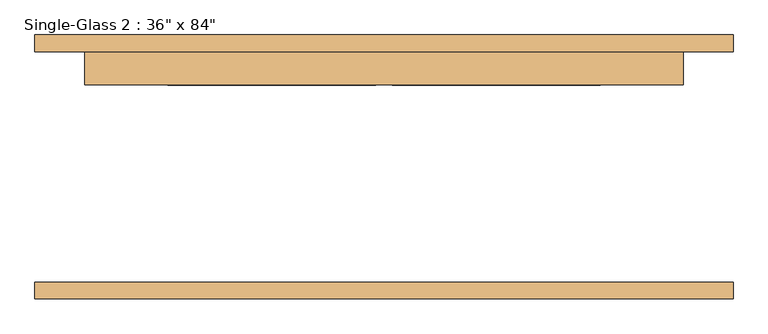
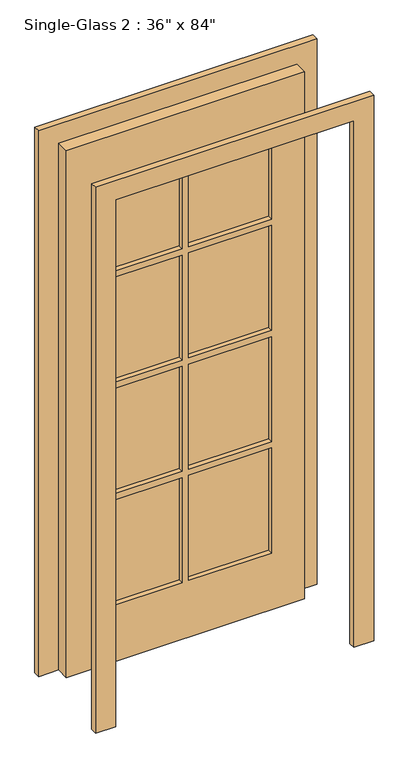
"""IFC4 building model written with IfcOpenShell, lengths in millimetres: door geometry."""

import ifcopenshell
import ifcopenshell.guid

model = None  # the IFC model being written
_history = None  # IfcOwnerHistory: only IFC2X3 demands one
_inside = {}  # id of a spatial element -> (the spatial element, [elements in it])
_under = {}  # id of a project, library or spatial element -> (it, [spatial elements below it])
_declared = {}  # id of a project -> (the project, [libraries it declares])
_typed = {}  # id of a type object -> (the type object, [elements of that type])
_made_of = {}  # id of a material, layer set ... -> (it, [elements and type objects made of it])


def new_model(schema):
    """Start an empty IFC model of exactly this schema.

    Asked for "IFC4X3", IfcOpenShell would pick the latest addendum, in which some entities
    have other attributes; the version numbers below select the first issue.
    IFC2X3 requires an IfcOwnerHistory on every rooted entity: one is made here for all.
    """
    global model, _history
    if schema == "IFC4X3":
        model = ifcopenshell.file(schema_version=(4, 3, 0, 0))
    else:
        model = ifcopenshell.file(schema=schema)
    _inside.clear()
    _under.clear()
    _declared.clear()
    _typed.clear()
    _made_of.clear()
    _history = None
    if model.schema == "IFC2X3":
        org = make("IfcOrganization", Name="unknown")
        user = make(
            "IfcPersonAndOrganization",
            ThePerson=make("IfcPerson", FamilyName="unknown"),
            TheOrganization=org,
        )
        app = make(
            "IfcApplication",
            ApplicationDeveloper=org,
            Version="unknown",
            ApplicationFullName="unknown",
            ApplicationIdentifier="unknown",
        )
        _history = make(
            "IfcOwnerHistory",
            OwningUser=user,
            OwningApplication=app,
            ChangeAction="ADDED",
            CreationDate=0,
        )
    return model


def make(cls, **values):
    """One entity of the class cls with the attributes given. An attribute that is None is left unset."""
    return model.create_entity(
        cls, **{name: value for name, value in values.items() if value is not None}
    )


def rooted(cls, **values):
    """An entity with a GlobalId (a new one), such as an element, a storey or a relation."""
    return make(cls, GlobalId=ifcopenshell.guid.new(), OwnerHistory=_history, **values)


def si_unit(unit_type, name, prefix=None):
    """IfcSIUnit, for example si_unit("LENGTHUNIT", "METRE", prefix="MILLI")."""
    return make("IfcSIUnit", UnitType=unit_type, Prefix=prefix, Name=name)


def assignment(units):
    """IfcUnitAssignment: the units of a project."""
    return None if units is None else make("IfcUnitAssignment", Units=units)


def point(xyz):
    """IfcCartesianPoint."""
    return None if xyz is None else make("IfcCartesianPoint", Coordinates=xyz)


def direction(xyz):
    """IfcDirection."""
    return None if xyz is None else make("IfcDirection", DirectionRatios=xyz)


def frame(location, z_axis=None, x_axis=None):
    """IfcAxis2Placement3D, a coordinate frame: its origin and axes. An axis left out is left unset."""
    return make(
        "IfcAxis2Placement3D",
        Location=point(location),
        Axis=direction(z_axis),
        RefDirection=direction(x_axis),
    )


def origin():
    """The frame at (0, 0, 0) with its axes left unset."""
    return frame((0.0, 0.0, 0.0))


def place(relative_to, where):
    """IfcLocalPlacement: puts the frame where relative to a parent placement (None: the world)."""
    return make(
        "IfcLocalPlacement", PlacementRelTo=relative_to, RelativePlacement=where
    )


def context(
    kind, dimensions, precision=None, world=None, true_north=None, identifier=None
):
    """IfcGeometricRepresentationContext, for example the 3D "Model" context."""
    return make(
        "IfcGeometricRepresentationContext",
        ContextIdentifier=identifier,
        ContextType=kind,
        CoordinateSpaceDimension=dimensions,
        Precision=precision,
        WorldCoordinateSystem=world,
        TrueNorth=true_north,
    )


def project(units=None, contexts=None):
    """IfcProject with its units and contexts."""
    return rooted(
        "IfcProject",
        Name="project",
        RepresentationContexts=contexts,
        UnitsInContext=assignment(units),
    )


def spatial(cls, under=None, at=None, **own):
    """A site, building, storey or space (cls), placed at a placement, below another one or the project."""
    s = rooted(cls, ObjectPlacement=at, **own)
    if under is not None:
        _under.setdefault(under.id(), (under, []))[1].append(s)
    return s


def polyline(points):
    """IfcPolyline through the points."""
    return make("IfcPolyline", Points=[point(p) for p in points])


def outline(outer, holes=None, kind="AREA"):
    """IfcArbitraryClosedProfileDef: a profile drawn as a closed curve; with holes, ...WithVoids."""
    if holes is None:
        return make("IfcArbitraryClosedProfileDef", ProfileType=kind, OuterCurve=outer)
    return make(
        "IfcArbitraryProfileDefWithVoids",
        ProfileType=kind,
        OuterCurve=outer,
        InnerCurves=holes,
    )


def extrude(swept, where, along, depth):
    """IfcExtrudedAreaSolid: the profile swept, set in the frame where, extruded along a direction by depth."""
    return make(
        "IfcExtrudedAreaSolid",
        SweptArea=swept,
        Position=where,
        ExtrudedDirection=direction(along),
        Depth=depth,
    )


def shape(context_of_items, identifier, shape_type, items):
    """IfcShapeRepresentation: the items that make up one representation, for example the "Body"."""
    return make(
        "IfcShapeRepresentation",
        ContextOfItems=context_of_items,
        RepresentationIdentifier=identifier,
        RepresentationType=shape_type,
        Items=items,
    )


def source(mapping_origin, context_of_items, identifier, shape_type, items):
    """IfcRepresentationMap: a shape defined once, which mapped items show again and again."""
    return make(
        "IfcRepresentationMap",
        MappingOrigin=mapping_origin,
        MappedRepresentation=shape(context_of_items, identifier, shape_type, items),
    )


def transform(
    local_origin,
    x_axis=None,
    y_axis=None,
    z_axis=None,
    scale=None,
    scale2=None,
    scale3=None,
    uniform=True,
):
    """IfcCartesianTransformationOperator3D, or its non-uniform kind. x_axis, y_axis, z_axis: its Axis1, 2, 3."""
    if uniform:
        return make(
            "IfcCartesianTransformationOperator3D",
            Axis1=direction(x_axis),
            Axis2=direction(y_axis),
            LocalOrigin=point(local_origin),
            Scale=scale,
            Axis3=direction(z_axis),
        )
    return make(
        "IfcCartesianTransformationOperator3DnonUniform",
        Axis1=direction(x_axis),
        Axis2=direction(y_axis),
        LocalOrigin=point(local_origin),
        Scale=scale,
        Axis3=direction(z_axis),
        Scale2=scale2,
        Scale3=scale3,
    )


def mapped(mapping_source, mapping_target):
    """IfcMappedItem: shows the shape of a source again, moved by a transform."""
    return make(
        "IfcMappedItem", MappingSource=mapping_source, MappingTarget=mapping_target
    )


def made_of(thing, what):
    """Note that an element or type object is made of a material, layer set ...; save() writes the relation."""
    if what is not None:
        _made_of.setdefault(what.id(), (what, []))[1].append(thing)
    return thing


def element(
    cls,
    number,
    at=None,
    inside=None,
    cuts=None,
    type_object=None,
    material=None,
    context=None,
    identifier="Body",
    shape_type=None,
    held_by="IfcProductDefinitionShape",
    body=None,
    shapes=None,
    **own,
):
    """One element of the class cls, such as IfcWall. Its Tag is "e" and its number.

    at: its placement. inside: the storey or other place that contains it. cuts: it is an
    opening in that element (IfcRelVoidsElement). A single representation is given by context,
    identifier, shape_type and body (its items); several are given by shapes. held_by: the class
    of the entity that holds the representations. save() writes the other relations.
    """
    e = rooted(cls, Tag="e%d" % number, ObjectPlacement=at, **own)
    if body is not None:
        shapes = [shape(context, identifier, shape_type, body)]
    if shapes is not None:
        e.Representation = make(held_by, Representations=shapes)
    if inside is not None:
        _inside.setdefault(inside.id(), (inside, []))[1].append(e)
    if cuts is not None:
        rooted(
            "IfcRelVoidsElement", RelatingBuildingElement=cuts, RelatedOpeningElement=e
        )
    if type_object is not None:
        _typed.setdefault(type_object.id(), (type_object, []))[1].append(e)
    return made_of(e, material)


def aggregate(whole, parts):
    """IfcRelAggregates: a whole, such as a stair, and the parts it consists of."""
    return rooted("IfcRelAggregates", RelatingObject=whole, RelatedObjects=parts)


def save(model, path):
    """Write the relations noted so far, then the file.

    IfcRelAggregates (storeys below a building ...), IfcRelContainedInSpatialStructure (elements
    in a storey), IfcRelDefinesByType, IfcRelAssociatesMaterial and IfcRelDeclares: one each for
    every whole, place, type object, material and project.
    """
    for whole, parts in _under.values():
        aggregate(whole, parts)
    for where, things in _inside.values():
        rooted(
            "IfcRelContainedInSpatialStructure",
            RelatedElements=things,
            RelatingStructure=where,
        )
    for kind, things in _typed.values():
        rooted("IfcRelDefinesByType", RelatedObjects=things, RelatingType=kind)
    for what, things in _made_of.values():
        rooted("IfcRelAssociatesMaterial", RelatedObjects=things, RelatingMaterial=what)
    for by, libraries in _declared.values():
        rooted("IfcRelDeclares", RelatingContext=by, RelatedDefinitions=libraries)
    model.write(path)


def door_7719ec38(model_context):
    return source(origin(), model_context, "Body", "SweptSolid", [
        extrude(outline(polyline([(2209.8, 558.8), (2209.8, -508.0), (0.0, -508.0), (0.0, -431.8), (2133.6, -431.8), (2133.6, 482.6), (0.0, 482.6), (0.0, 558.8), (2209.8, 558.8)])), frame((0.0, -201.6125, 0.0), z_axis=(0.0, 1.0, 0.0), x_axis=(0.0, 0.0, 1.0)), (0.0, 0.0, 1.0), 25.4),
        extrude(outline(polyline([(2209.8, -508.0), (0.0, -508.0), (0.0, -431.8), (2133.6, -431.8), (2133.6, 482.6), (0.0, 482.6), (0.0, 558.8), (2209.8, 558.8), (2209.8, -508.0)])), frame((0.0, 176.2125, 0.0), z_axis=(0.0, 1.0, 0.0), x_axis=(0.0, 0.0, 1.0)), (0.0, 0.0, 1.0), 25.4),
        extrude(outline(polyline([(2133.6, 482.6), (2133.6, -431.8), (0.0, -431.8), (0.0, 482.6), (2133.6, 482.6)]), holes=[polyline([(1955.8, 12.7), (1581.15, 12.7), (1581.15, -304.8), (1955.8, -304.8), (1955.8, 12.7)]), polyline([(1955.8, 355.6), (1581.15, 355.6), (1581.15, 38.1), (1955.8, 38.1), (1955.8, 355.6)]), polyline([(1555.75, 12.7), (1130.3, 12.7), (1130.3, -304.8), (1555.75, -304.8), (1555.75, 12.7)]), polyline([(1555.75, 355.6), (1130.3, 355.6), (1130.3, 38.1), (1555.75, 38.1), (1555.75, 355.6)]), polyline([(1104.9, 12.7), (679.45, 12.7), (679.45, -304.8), (1104.9, -304.8), (1104.9, 12.7)]), polyline([(1104.9, 355.6), (679.45, 355.6), (679.45, 38.1), (1104.9, 38.1), (1104.9, 355.6)]), polyline([(654.05, 12.7), (228.6, 12.7), (228.6, -304.8), (654.05, -304.8), (654.05, 12.7)]), polyline([(654.05, 355.6), (228.6, 355.6), (228.6, 38.1), (654.05, 38.1), (654.05, 355.6)])]), frame((0.0, 125.4125, 0.0), z_axis=(0.0, 1.0, 0.0), x_axis=(0.0, 0.0, 1.0)), (0.0, 0.0, 1.0), 50.8),
        extrude(outline(polyline([(12.7, 144.4625), (-304.8, 144.4625), (-304.8, 157.1625), (12.7, 157.1625), (12.7, 144.4625)])), frame((0.0, 0.0, 1581.15), z_axis=(0.0, 0.0, 1.0), x_axis=(1.0, 0.0, 0.0)), (0.0, 0.0, 1.0), 374.65),
        extrude(outline(polyline([(355.6, 144.4625), (38.1, 144.4625), (38.1, 157.1625), (355.6, 157.1625), (355.6, 144.4625)])), frame((0.0, 0.0, 1581.15), z_axis=(0.0, 0.0, 1.0), x_axis=(1.0, 0.0, 0.0)), (0.0, 0.0, 1.0), 374.65),
        extrude(outline(polyline([(355.6, 144.4625), (38.1, 144.4625), (38.1, 157.1625), (355.6, 157.1625), (355.6, 144.4625)])), frame((0.0, 0.0, 1130.3), z_axis=(0.0, 0.0, 1.0), x_axis=(1.0, 0.0, 0.0)), (0.0, 0.0, 1.0), 425.45),
        extrude(outline(polyline([(12.7, 144.4625), (-304.8, 144.4625), (-304.8, 157.1625), (12.7, 157.1625), (12.7, 144.4625)])), frame((0.0, 0.0, 1130.3), z_axis=(0.0, 0.0, 1.0), x_axis=(1.0, 0.0, 0.0)), (0.0, 0.0, 1.0), 425.45),
        extrude(outline(polyline([(12.7, 144.4625), (-304.8, 144.4625), (-304.8, 157.1625), (12.7, 157.1625), (12.7, 144.4625)])), frame((0.0, 0.0, 679.45), z_axis=(0.0, 0.0, 1.0), x_axis=(1.0, 0.0, 0.0)), (0.0, 0.0, 1.0), 425.45),
        extrude(outline(polyline([(355.6, 144.4625), (38.1, 144.4625), (38.1, 157.1625), (355.6, 157.1625), (355.6, 144.4625)])), frame((0.0, 0.0, 679.45), z_axis=(0.0, 0.0, 1.0), x_axis=(1.0, 0.0, 0.0)), (0.0, 0.0, 1.0), 425.45),
        extrude(outline(polyline([(355.6, 144.4625), (38.1, 144.4625), (38.1, 157.1625), (355.6, 157.1625), (355.6, 144.4625)])), frame((0.0, 0.0, 228.6), z_axis=(0.0, 0.0, 1.0), x_axis=(1.0, 0.0, 0.0)), (0.0, 0.0, 1.0), 425.45),
        extrude(outline(polyline([(12.7, 144.4625), (-304.8, 144.4625), (-304.8, 157.1625), (12.7, 157.1625), (12.7, 144.4625)])), frame((0.0, 0.0, 228.6), z_axis=(0.0, 0.0, 1.0), x_axis=(1.0, 0.0, 0.0)), (0.0, 0.0, 1.0), 425.45),
    ])


if __name__ == "__main__":
    model = new_model("IFC4")
    model_context = context("Model", 3, world=origin())
    ifc_project = project(units=[si_unit("LENGTHUNIT", "METRE", prefix="MILLI")], contexts=[model_context])
    site = spatial("IfcSite", under=ifc_project)
    building = spatial("IfcBuilding", under=site)
    placement = place(None, origin())
    door_shape = door_7719ec38(model_context)
    element("IfcDoor", 1, ObjectType="Single-Glass 2 : 36\" x 84\"", at=placement, inside=building, context=model_context, shape_type="MappedRepresentation", body=[
        mapped(door_shape, transform((0.0, 0.0, 0.0), x_axis=(1.0, 0.0, 0.0), y_axis=(0.0, 1.0, 0.0), z_axis=(0.0, 0.0, 1.0))),
    ])
    save(model, "model.ifc")
